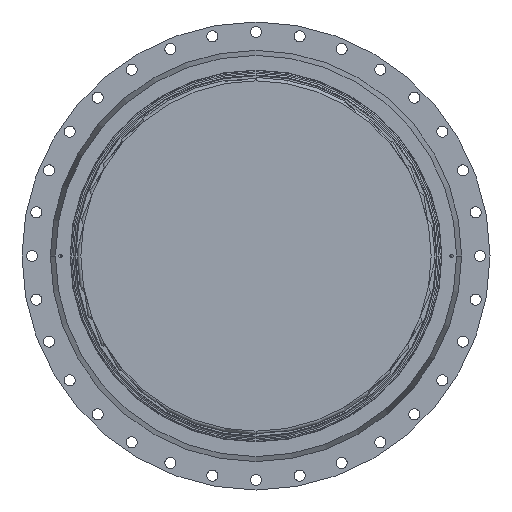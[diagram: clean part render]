
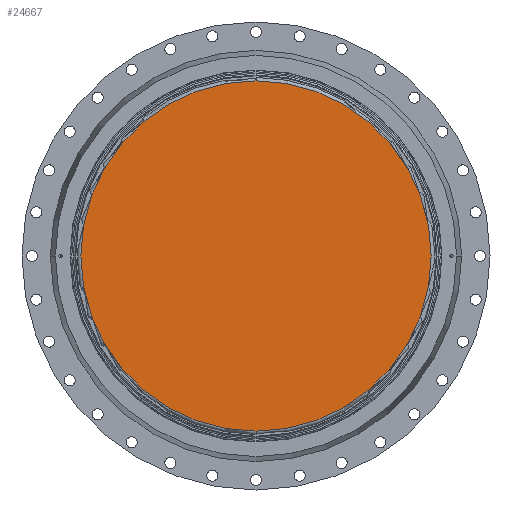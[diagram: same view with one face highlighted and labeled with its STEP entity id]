
A CAD part, front view. The second image highlights one B-rep face of the part: STEP entity #24667.
In plain terms, the highlighted planar face has unit normal (0, -1, 0).
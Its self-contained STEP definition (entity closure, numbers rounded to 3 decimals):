
#21060 = FACE_OUTER_BOUND ( 'NONE', #76759, .T. ) ;
#24667 = ADVANCED_FACE ( 'NONE', ( #21060 ), #660871, .F. ) ;
#32801 = CARTESIAN_POINT ( 'NONE',  ( 0.69, -1517.272, 0. ) ) ;
#76759 = EDGE_LOOP ( 'NONE', ( #506577, #484317 ) ) ;
#86112 = DIRECTION ( 'NONE',  ( 0., 0., 1. ) ) ;
#132660 = EDGE_CURVE ( 'NONE', #397518, #488520, #378817, .T. ) ;
#239520 = DIRECTION ( 'NONE',  ( 0., 1., 0. ) ) ;
#244391 = CARTESIAN_POINT ( 'NONE',  ( 0.69, -1517.272, 0. ) ) ;
#297713 = DIRECTION ( 'NONE',  ( 0., 0., 1. ) ) ;
#300652 = CARTESIAN_POINT ( 'NONE',  ( 0.69, -1517.272, -524. ) ) ;
#317372 = AXIS2_PLACEMENT_3D ( 'NONE', #244391, #614838, #297713 ) ;
#364652 = CIRCLE ( 'NONE', #608199, 524. ) ;
#378817 = CIRCLE ( 'NONE', #317372, 524. ) ;
#397518 = VERTEX_POINT ( 'NONE', #300652 ) ;
#403499 = DIRECTION ( 'NONE',  ( 0., -1., 0. ) ) ;
#484317 = ORIENTED_EDGE ( 'NONE', *, *, #132660, .T. ) ;
#488520 = VERTEX_POINT ( 'NONE', #538096 ) ;
#495964 = AXIS2_PLACEMENT_3D ( 'NONE', #556804, #239520, #610013 ) ;
#506577 = ORIENTED_EDGE ( 'NONE', *, *, #654460, .T. ) ;
#538096 = CARTESIAN_POINT ( 'NONE',  ( 0.69, -1517.272, 524. ) ) ;
#556804 = CARTESIAN_POINT ( 'NONE',  ( -523.31, -1517.272, 500000. ) ) ;
#608199 = AXIS2_PLACEMENT_3D ( 'NONE', #32801, #403499, #86112 ) ;
#610013 = DIRECTION ( 'NONE',  ( -1., 0., 0. ) ) ;
#614838 = DIRECTION ( 'NONE',  ( 0., -1., 0. ) ) ;
#654460 = EDGE_CURVE ( 'NONE', #488520, #397518, #364652, .T. ) ;
#660871 = PLANE ( 'NONE',  #495964 ) ;
